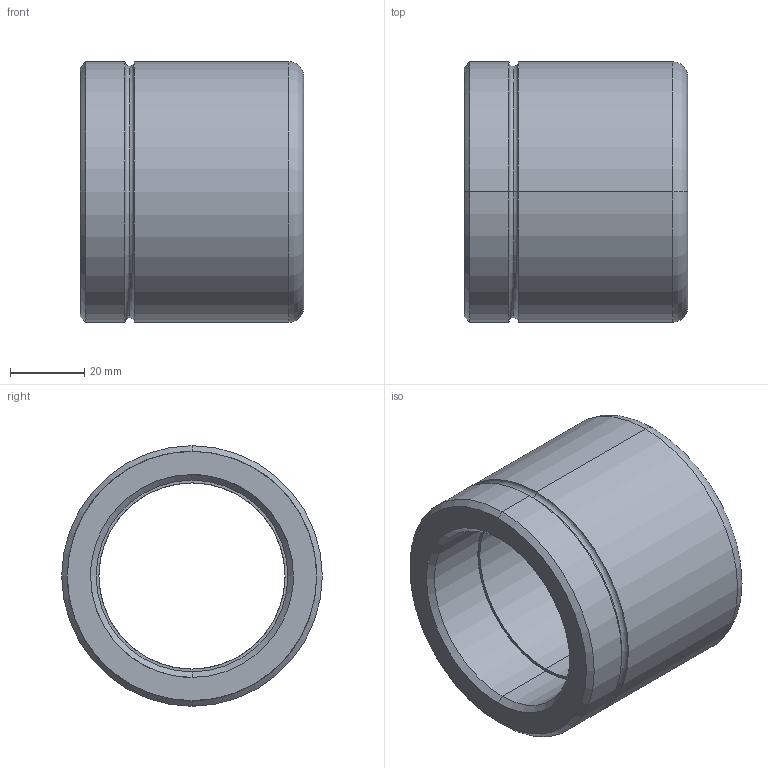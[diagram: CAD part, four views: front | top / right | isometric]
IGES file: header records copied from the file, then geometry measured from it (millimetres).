
Start section: START RECORD GO HERE.
Global section: file name: 347-50 x 60.igs; native system: DASSAULT SYSTEMES CATIA V5 R20 - www.3ds.com; preprocessor: CATIA Version 5 Release 20 ; author: Utente; organization: NB04-ASUS; date: 20210101.104353; units: millimetre
Bounding box: 60 x 70 x 70 mm (x, y, z)
Surface area: 26278.6 mm2 (no closed solid volume)
Topology: 0 solids, 0 shells, 29 faces, 172 edges, 172 vertices
Faces by surface type: revolution 26, plane 3
